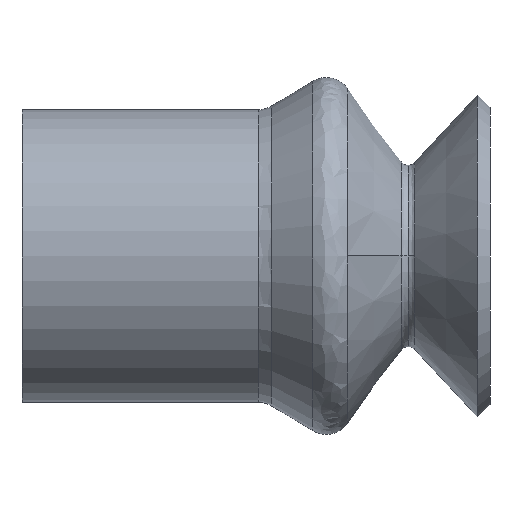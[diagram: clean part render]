
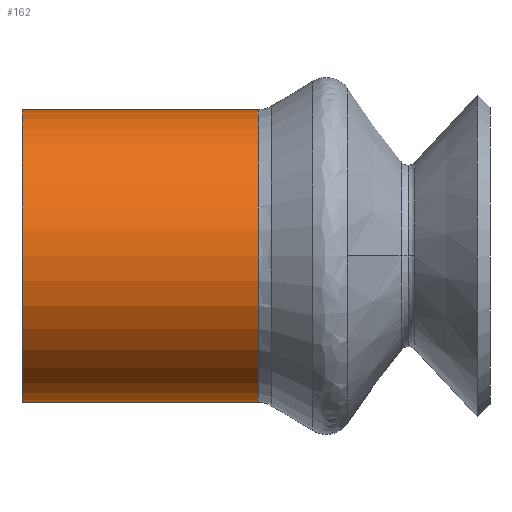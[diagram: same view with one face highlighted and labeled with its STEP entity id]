
A CAD part, left-side view. The second image highlights one B-rep face of the part: STEP entity #162.
In plain terms, the highlighted cylindrical face has radius 5 mm (diameter 10 mm), a partial arc.
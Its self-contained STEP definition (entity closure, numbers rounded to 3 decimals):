
#59 = CARTESIAN_POINT ( 'NONE',  ( 0., -8.076, 0. ) ) ;
#65 = DIRECTION ( 'NONE',  ( 0., -1., 0. ) ) ;
#95 = DIRECTION ( 'NONE',  ( 0., 0., 1. ) ) ;
#114 = ORIENTED_EDGE ( 'NONE', *, *, #990, .T. ) ;
#158 = CARTESIAN_POINT ( 'NONE',  ( 0., 0., 5. ) ) ;
#162 = ADVANCED_FACE ( 'NONE', ( #1110 ), #1049, .T. ) ;
#172 = VECTOR ( 'NONE', #375, 1000. ) ;
#218 = EDGE_CURVE ( 'NONE', #256, #408, #708, .T. ) ;
#256 = VERTEX_POINT ( 'NONE', #706 ) ;
#292 = CARTESIAN_POINT ( 'NONE',  ( 0., -8.076, 5. ) ) ;
#317 = AXIS2_PLACEMENT_3D ( 'NONE', #703, #65, #95 ) ;
#369 = VERTEX_POINT ( 'NONE', #427 ) ;
#375 = DIRECTION ( 'NONE',  ( 0., 1., 0. ) ) ;
#395 = CIRCLE ( 'NONE', #317, 5. ) ;
#401 = ORIENTED_EDGE ( 'NONE', *, *, #570, .F. ) ;
#408 = VERTEX_POINT ( 'NONE', #158 ) ;
#427 = CARTESIAN_POINT ( 'NONE',  ( 0., -8.076, 5. ) ) ;
#462 = CARTESIAN_POINT ( 'NONE',  ( 0., 0., 0. ) ) ;
#476 = LINE ( 'NONE', #537, #172 ) ;
#479 = EDGE_CURVE ( 'NONE', #505, #256, #476, .T. ) ;
#494 = EDGE_LOOP ( 'NONE', ( #866, #401, #114, #638 ) ) ;
#505 = VERTEX_POINT ( 'NONE', #811 ) ;
#537 = CARTESIAN_POINT ( 'NONE',  ( 0., -8.076, -5. ) ) ;
#570 = EDGE_CURVE ( 'NONE', #369, #505, #395, .T. ) ;
#638 = ORIENTED_EDGE ( 'NONE', *, *, #218, .F. ) ;
#703 = CARTESIAN_POINT ( 'NONE',  ( 0., -8.076, 0. ) ) ;
#706 = CARTESIAN_POINT ( 'NONE',  ( 0., 0., -5. ) ) ;
#708 = CIRCLE ( 'NONE', #817, 5. ) ;
#756 = DIRECTION ( 'NONE',  ( 0., 1., 0. ) ) ;
#811 = CARTESIAN_POINT ( 'NONE',  ( 0., -8.076, -5. ) ) ;
#817 = AXIS2_PLACEMENT_3D ( 'NONE', #462, #856, #904 ) ;
#830 = AXIS2_PLACEMENT_3D ( 'NONE', #59, #1007, #1128 ) ;
#856 = DIRECTION ( 'NONE',  ( 0., 1., 0. ) ) ;
#866 = ORIENTED_EDGE ( 'NONE', *, *, #479, .F. ) ;
#904 = DIRECTION ( 'NONE',  ( 0., 0., 1. ) ) ;
#958 = LINE ( 'NONE', #292, #988 ) ;
#988 = VECTOR ( 'NONE', #756, 1000. ) ;
#990 = EDGE_CURVE ( 'NONE', #369, #408, #958, .T. ) ;
#1007 = DIRECTION ( 'NONE',  ( 0., 1., 0. ) ) ;
#1049 = CYLINDRICAL_SURFACE ( 'NONE', #830, 5. ) ;
#1110 = FACE_OUTER_BOUND ( 'NONE', #494, .T. ) ;
#1128 = DIRECTION ( 'NONE',  ( 0., 0., 1. ) ) ;
